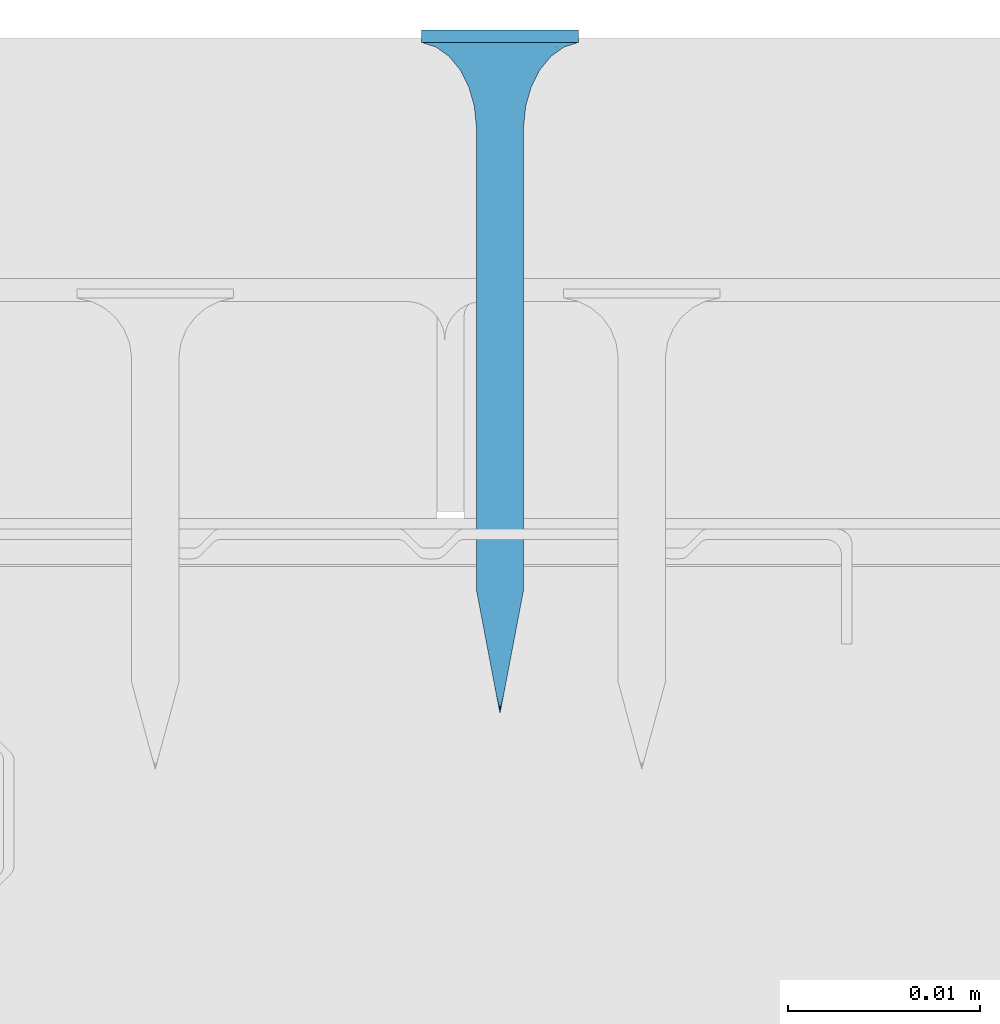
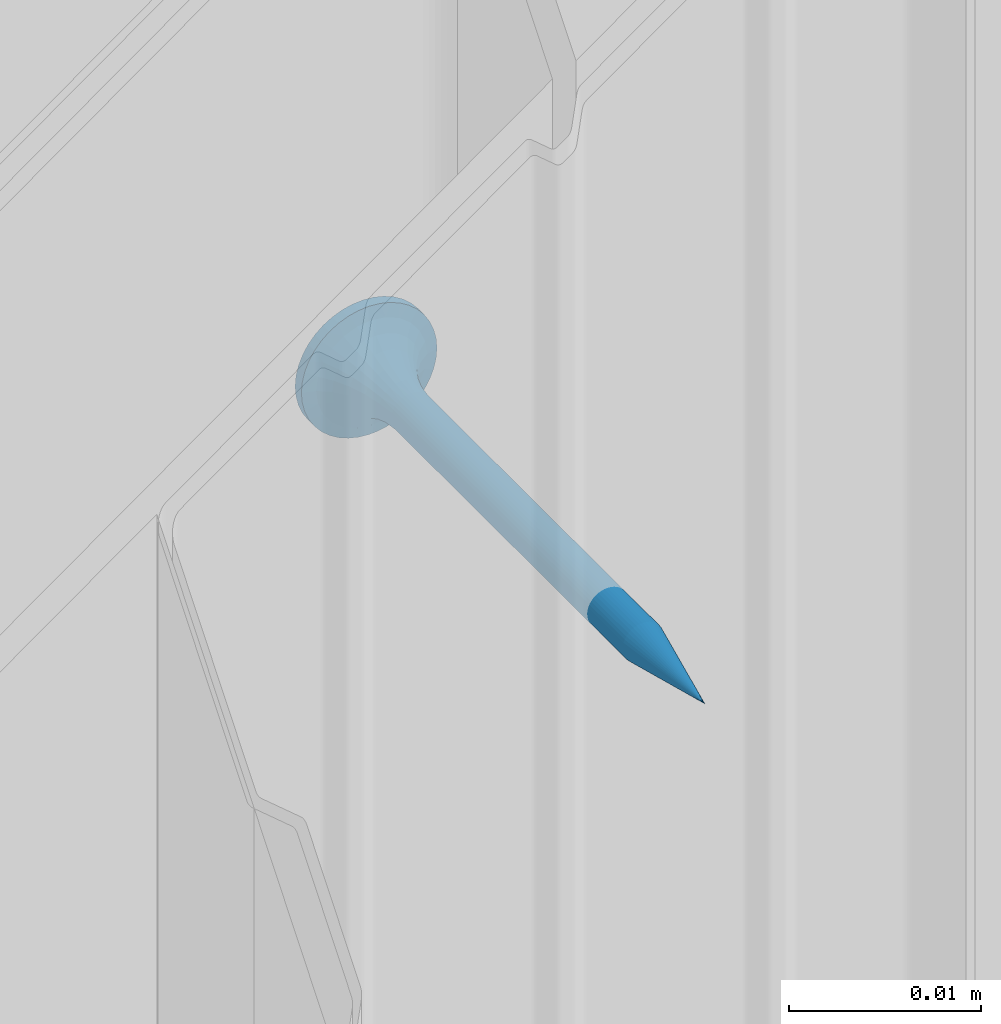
# One storey, part 86 of 89: 1 wall.
"""IFC2X3 building model written with IfcOpenShell, lengths in millimetres."""

from ifc_helpers import new_model, entity, si_unit, converted_unit, direction, frame, origin, origin_with_axes, place, context, project, spatial, faceted_brep, element, save


model = new_model("IFC2X3")

# Units and contexts
model_context = context("Model", 3, precision=1e-05, world=origin(), true_north=direction((0.0, 1.0, 0.0)))
ifc_project = project(units=[si_unit("LENGTHUNIT", "METRE", prefix="MILLI"), si_unit("AREAUNIT", "SQUARE_METRE"), si_unit("VOLUMEUNIT", "CUBIC_METRE"), converted_unit("PLANEANGLEUNIT", "DEGREE", entity("IfcPlaneAngleMeasure", 0.01745), si_unit("PLANEANGLEUNIT", "RADIAN"), dimensions=[0, 0, 0, 0, 0, 0, 0]), si_unit("SOLIDANGLEUNIT", "STERADIAN"), si_unit("MASSUNIT", "GRAM"), si_unit("TIMEUNIT", "SECOND"), si_unit("THERMODYNAMICTEMPERATUREUNIT", "DEGREE_CELSIUS"), si_unit("LUMINOUSINTENSITYUNIT", "LUMEN")], contexts=[model_context])

# Site, building, storey
site_placement = place(None, origin_with_axes())
site = spatial("IfcSite", under=ifc_project, at=site_placement, Name="Default Site", CompositionType="ELEMENT")
building_placement = place(site_placement, origin_with_axes())
building = spatial("IfcBuilding", under=site, at=building_placement, Name="Default Building", CompositionType="ELEMENT")
storey_placement = place(building_placement, origin_with_axes())
storey = spatial("IfcBuildingStorey", under=building, at=storey_placement, Name="Default Building Storey", CompositionType="ELEMENT", Elevation=0.0)

# Wall
wall_placement = place(storey_placement, frame((3282.378809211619, -2709.70794567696, -296.9378894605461), z_axis=(0.0, 0.0, 1.0), x_axis=(-1.0, -1.471045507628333e-15, 0.0)))
element("IfcWall", 1, at=wall_placement, inside=storey, Name="Wkręt RIGIPS TN 35", context=model_context, shape_type="Brep", body=[
    faceted_brep([(-141.5377463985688, -4832.598051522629, 555.8000000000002), (-141.5377463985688, -4833.259713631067, 555.8000000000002), (-141.4875329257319, -4833.259713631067, 555.1619773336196), (-141.4875329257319, -4832.598051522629, 555.1619773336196), (-141.3381289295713, -4833.259713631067, 554.5396649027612), (-141.3381289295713, -4832.598051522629, 554.5396649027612), (-141.0932132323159, -4833.259713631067, 553.9483861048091), (-141.0932132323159, -4832.598051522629, 553.9483861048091), (-140.7588164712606, -4833.259713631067, 553.4027001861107), (-140.7588164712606, -4832.598051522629, 553.4027001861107), (-140.3431726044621, -4833.259713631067, 552.9160437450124), (-140.4541727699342, -4832.598051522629, 553.0314907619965), (-140.1080097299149, -4832.598051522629, 552.6986614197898), (-139.8565161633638, -4833.259713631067, 552.5003998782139), (-139.7251262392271, -4832.598051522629, 552.4088262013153), (-139.3108302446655, -4833.259713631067, 552.1660031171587), (-139.3108302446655, -4832.598051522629, 552.1660031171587), (-138.870865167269, -4832.598051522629, 551.9735584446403), (-138.7195514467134, -4833.259713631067, 551.9210874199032), (-138.4113302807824, -4832.598051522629, 551.8341600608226), (-137.9385961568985, -4832.598051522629, 551.7497404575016), (-138.0972390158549, -4833.259713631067, 551.7716834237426), (-137.4592163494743, -4833.259713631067, 551.7214699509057), (-137.4592163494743, -4832.598051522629, 551.7214699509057), (-136.8211936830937, -4833.259713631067, 551.7716834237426), (-136.8211936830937, -4832.598051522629, 551.7716834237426), (-136.1988812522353, -4833.259713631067, 551.9210874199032), (-136.1988812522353, -4832.598051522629, 551.9210874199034), (-135.6076024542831, -4833.259713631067, 552.1660031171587), (-135.6076024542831, -4832.598051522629, 552.1660031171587), (-135.0619165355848, -4833.259713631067, 552.5003998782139), (-135.0619165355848, -4832.598051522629, 552.5003998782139), (-134.5752600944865, -4833.259713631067, 552.9160437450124), (-134.5752600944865, -4832.598051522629, 552.9160437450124), (-134.159616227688, -4833.259713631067, 553.4027001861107), (-134.159616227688, -4832.598051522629, 553.4027001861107), (-133.8252194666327, -4833.259713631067, 553.9483861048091), (-133.8252194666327, -4832.598051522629, 553.9483861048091), (-133.5803037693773, -4833.259713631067, 554.5396649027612), (-133.5803037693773, -4832.598051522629, 554.5396649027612), (-133.4308997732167, -4833.259713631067, 556.4380226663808), (-133.4308997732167, -4832.598051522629, 556.4380226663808), (-133.3806863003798, -4832.598051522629, 555.8000000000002), (-133.3806863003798, -4833.259713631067, 555.8000000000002), (-133.4308997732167, -4832.598051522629, 555.1619773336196), (-133.4308997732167, -4833.259713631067, 555.1619773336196), (-133.5803037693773, -4833.259713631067, 557.0603350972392), (-133.5803037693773, -4832.598051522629, 557.0603350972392), (-133.8252194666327, -4833.259713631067, 557.6516138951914), (-133.8252194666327, -4832.598051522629, 557.6516138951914), (-134.159616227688, -4833.259713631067, 558.1972998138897), (-134.159616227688, -4832.598051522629, 558.1972998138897), (-134.5752600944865, -4833.259713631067, 558.683956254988), (-134.5752600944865, -4832.598051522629, 558.683956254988), (-135.0619165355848, -4833.259713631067, 559.0996001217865), (-135.0619165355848, -4832.598051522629, 559.0996001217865), (-135.6076024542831, -4833.259713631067, 559.4339968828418), (-135.6076024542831, -4832.598051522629, 559.4339968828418), (-136.1988812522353, -4833.259713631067, 559.6789125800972), (-136.1988812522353, -4832.598051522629, 559.6789125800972), (-136.8211936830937, -4833.259713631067, 559.8283165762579), (-136.8211936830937, -4832.598051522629, 559.8283165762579), (-137.4592163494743, -4833.259713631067, 559.8785300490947), (-137.4592163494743, -4832.598051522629, 559.8785300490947), (-138.0972390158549, -4833.259713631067, 559.8283165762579), (-138.0972390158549, -4832.598051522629, 559.8283165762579), (-138.7195514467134, -4833.259713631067, 559.6789125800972), (-138.7195514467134, -4832.598051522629, 559.6789125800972), (-139.3108302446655, -4833.259713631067, 559.4339968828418), (-139.3108302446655, -4832.598051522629, 559.4339968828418), (-139.8565161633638, -4833.259713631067, 559.0996001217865), (-139.8565161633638, -4832.598051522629, 559.0996001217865), (-140.3431726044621, -4833.259713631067, 558.683956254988), (-140.3431726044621, -4832.598051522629, 558.683956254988), (-140.7588164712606, -4833.259713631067, 558.1972998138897), (-140.7588164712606, -4832.598051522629, 558.1972998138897), (-141.0932132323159, -4833.259713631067, 557.6516138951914), (-141.0932132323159, -4832.598051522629, 557.6516138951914), (-141.3381289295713, -4833.259713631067, 557.0603350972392), (-141.3381289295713, -4832.598051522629, 557.0603350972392), (-141.4875329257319, -4833.259713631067, 556.4380226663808), (-141.4875329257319, -4832.598051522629, 556.4380226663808), (-137.8060615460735, -4829.281368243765, 554.5055560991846), (-137.4592163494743, -4828.206294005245, 554.5693795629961), (-137.6517277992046, -4828.206294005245, 554.5845305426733), (-137.4592163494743, -4829.281368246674, 554.4598930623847), (-137.8394989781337, -4828.206294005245, 554.6296104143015), (-138.1292698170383, -4829.281368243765, 554.639433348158), (-138.0179063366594, -4828.206294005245, 554.7035091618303), (-138.1825568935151, -4828.206294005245, 554.804407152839), (-138.4068150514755, -4829.281368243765, 554.8524012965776), (-138.3293964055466, -4828.206294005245, 554.929819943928), (-138.6197830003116, -4829.281368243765, 555.1299465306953), (-138.4548091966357, -4828.206294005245, 555.0766594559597), (-138.5557071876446, -4828.206294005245, 555.2413100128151), (-138.7536602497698, -4829.281368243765, 555.4531548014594), (-138.629605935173, -4828.206294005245, 555.4197173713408), (-138.6746858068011, -4828.206294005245, 555.6074885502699), (-138.7993232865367, -4829.281368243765, 555.7999999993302), (-138.6898367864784, -4828.206294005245, 555.8000000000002), (-138.7536602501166, -4829.281368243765, 556.1468451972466), (-138.6746858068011, -4828.206294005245, 555.9925114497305), (-138.629605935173, -4828.206294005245, 556.1802826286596), (-138.6197830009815, -4829.281368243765, 556.4700534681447), (-138.5557071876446, -4828.206294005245, 556.3586899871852), (-138.4548091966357, -4828.206294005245, 556.5233405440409), (-138.4068150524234, -4829.281368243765, 556.7475987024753), (-138.3293964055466, -4828.206294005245, 556.6701800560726), (-138.1292698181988, -4829.281368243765, 556.9605666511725), (-138.1825568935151, -4828.206294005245, 556.7955928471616), (-138.0179063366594, -4828.206294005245, 556.8964908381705), (-137.8060615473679, -4829.281368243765, 557.094443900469), (-137.8394989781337, -4828.206294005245, 556.970389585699), (-137.6517277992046, -4828.206294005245, 557.0154694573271), (-137.4592163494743, -4829.281368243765, 557.1401069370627), (-137.4592163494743, -4828.206294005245, 557.0306204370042), (-137.1123711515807, -4829.281368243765, 557.094443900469), (-137.2667048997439, -4828.206294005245, 557.0154694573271), (-137.0789337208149, -4828.206294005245, 556.970389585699), (-136.7891628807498, -4829.281368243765, 556.9605666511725), (-136.9005263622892, -4828.206294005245, 556.8964908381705), (-136.7358758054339, -4828.206294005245, 556.7955928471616), (-136.5116176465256, -4829.281368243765, 556.7475987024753), (-136.5890362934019, -4828.206294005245, 556.6701800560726), (-136.2986496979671, -4829.281368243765, 556.4700534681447), (-136.4636235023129, -4828.206294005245, 556.5233405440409), (-136.3627255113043, -4828.206294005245, 556.3586899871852), (-136.1647724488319, -4829.281368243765, 556.1468451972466), (-136.2888267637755, -4828.206294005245, 556.1802826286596), (-136.2437468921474, -4828.206294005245, 555.9925114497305), (-136.1191094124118, -4829.281368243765, 555.7999999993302), (-136.2285959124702, -4828.206294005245, 555.8000000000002), (-136.1647724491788, -4829.281368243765, 555.4531548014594), (-136.2437468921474, -4828.206294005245, 555.6074885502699), (-136.2888267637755, -4828.206294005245, 555.4197173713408), (-136.298649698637, -4829.281368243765, 555.1299465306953), (-136.3627255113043, -4828.206294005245, 555.2413100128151), (-136.4636235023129, -4828.206294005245, 555.0766594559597), (-136.5116176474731, -4829.281368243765, 554.8524012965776), (-136.5890362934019, -4828.206294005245, 554.929819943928), (-136.7891628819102, -4829.281368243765, 554.639433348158), (-136.7358758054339, -4828.206294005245, 554.804407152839), (-136.9005263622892, -4828.206294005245, 554.7035091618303), (-137.1123711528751, -4829.281368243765, 554.5055560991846), (-137.0789337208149, -4828.206294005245, 554.6296104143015), (-137.2667048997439, -4828.206294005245, 554.5845305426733), (-137.4592163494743, -4830.288222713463, 554.1737111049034), (-137.8801308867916, -4830.288222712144, 554.2291255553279), (-138.2723607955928, -4830.288222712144, 554.3915925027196), (-138.6091762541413, -4830.288222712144, 554.6500400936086), (-138.8676238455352, -4830.288222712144, 554.9868555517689), (-139.0300907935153, -4830.288222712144, 555.3790854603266), (-139.085505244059, -4830.288222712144, 555.799999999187), (-139.0300907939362, -4830.288222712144, 556.2209145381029), (-138.8676238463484, -4830.288222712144, 556.6131444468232), (-138.6091762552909, -4830.288222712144, 556.9499599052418), (-138.2723607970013, -4830.288222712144, 557.2084074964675), (-137.8801308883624, -4830.288222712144, 557.3708744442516), (-137.4592163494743, -4830.288222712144, 557.4262888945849), (-137.0383018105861, -4830.288222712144, 557.3708744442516), (-136.6460719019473, -4830.288222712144, 557.2084074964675), (-136.3092564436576, -4830.288222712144, 556.9499599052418), (-136.0508088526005, -4830.288222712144, 556.6131444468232), (-135.8883419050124, -4830.288222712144, 556.2209145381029), (-135.8329274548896, -4830.288222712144, 555.799999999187), (-135.8883419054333, -4830.288222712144, 555.3790854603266), (-136.0508088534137, -4830.288222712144, 554.9868555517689), (-136.3092564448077, -4830.288222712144, 554.6500400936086), (-136.6460719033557, -4830.288222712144, 554.3915925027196), (-137.038301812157, -4830.288222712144, 554.2291255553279), (-137.4592163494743, -4831.168773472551, 553.7273431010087), (-137.9956594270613, -4831.168773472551, 553.7979671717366), (-138.4955447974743, -4831.168773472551, 554.005026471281), (-138.9248060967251, -4831.168773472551, 554.3344102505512), (-139.2541898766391, -4831.168773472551, 554.7636715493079), (-139.4612491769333, -4831.168773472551, 555.2635569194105), (-139.5318732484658, -4831.168773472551, 555.7999999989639), (-139.4612491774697, -4831.168773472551, 556.3364430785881), (-139.2541898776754, -4831.168773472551, 556.8363284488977), (-138.9248060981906, -4831.168773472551, 557.2655897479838), (-138.4955447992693, -4831.168773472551, 557.594973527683), (-137.9956594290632, -4831.168773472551, 557.8020328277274), (-137.4592163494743, -4831.168773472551, 557.8726568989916), (-136.9227732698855, -4831.168773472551, 557.8020328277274), (-136.4228878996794, -4831.168773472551, 557.594973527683), (-135.993626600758, -4831.168773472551, 557.2655897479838), (-135.6642428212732, -4831.168773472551, 556.8363284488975), (-135.4571835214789, -4831.168773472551, 556.3364430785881), (-135.3865594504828, -4831.168773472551, 555.7999999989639), (-135.4571835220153, -4831.168773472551, 555.2635569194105), (-135.6642428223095, -4831.168773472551, 554.7636715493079), (-135.9936266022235, -4831.168773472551, 554.3344102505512), (-136.4228879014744, -4831.168773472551, 554.005026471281), (-136.9227732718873, -4831.168773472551, 553.7979671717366), (-137.4592163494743, -4831.872222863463, 553.1465393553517), (-138.1459824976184, -4831.872222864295, 553.2369538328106), (-138.7859466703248, -4831.872222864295, 553.5020356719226), (-139.3354963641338, -4831.872222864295, 553.9237199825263), (-139.757180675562, -4831.872222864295, 554.4732696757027), (-140.0222625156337, -4831.872222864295, 555.1132338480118), (-140.1126769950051, -4831.872222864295, 555.7999999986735), (-140.0222625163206, -4831.872222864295, 556.4867661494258), (-139.7571806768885, -4831.872222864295, 557.1267303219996), (-139.33549636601, -4831.872222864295, 557.6762800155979), (-138.7859466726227, -4831.872222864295, 558.0979643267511), (-138.1459825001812, -4831.872222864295, 558.3630461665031), (-137.4592163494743, -4831.872222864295, 558.4534606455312), (-136.7724501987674, -4831.872222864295, 558.3630461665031), (-136.1324860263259, -4831.872222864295, 558.0979643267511), (-135.5829363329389, -4831.872222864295, 557.6762800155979), (-135.1612520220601, -4831.872222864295, 557.1267303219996), (-134.8961701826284, -4831.872222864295, 556.4867661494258), (-134.8057557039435, -4831.872222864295, 555.7999999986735), (-134.8961701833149, -4831.872222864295, 555.1132338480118), (-135.1612520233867, -4831.872222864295, 554.4732696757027), (-135.5829363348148, -4831.872222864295, 553.9237199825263), (-136.1324860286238, -4831.872222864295, 553.5020356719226), (-136.7724502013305, -4831.872222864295, 553.2369538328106), (-137.4592163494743, -4832.357989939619, 552.4648055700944), (-138.3224281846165, -4832.357989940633, 552.578449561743), (-139.1268135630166, -4832.357989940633, 552.9116368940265), (-139.8175549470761, -4832.357989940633, 553.4416613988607), (-140.3475794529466, -4832.357989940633, 554.1324027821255), (-140.6807667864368, -4832.357989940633, 554.9367881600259), (-140.7944107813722, -4832.357989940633, 555.7999999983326), (-140.6807667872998, -4832.357989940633, 556.6632118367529), (-140.3475794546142, -4832.357989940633, 557.4675972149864), (-139.8175549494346, -4832.357989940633, 558.1583385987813), (-139.1268135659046, -4832.357989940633, 558.6883631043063), (-138.322428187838, -4832.357989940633, 559.021550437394), (-137.4592163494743, -4832.357989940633, 559.1351944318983), (-136.596004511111, -4832.357989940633, 559.021550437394), (-135.791619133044, -4832.357989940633, 558.6883631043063), (-135.100877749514, -4832.357989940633, 558.1583385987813), (-134.5708532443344, -4832.357989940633, 557.4675972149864), (-134.2376659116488, -4832.357989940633, 556.6632118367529), (-134.1240219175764, -4832.357989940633, 555.7999999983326), (-134.2376659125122, -4832.357989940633, 554.9367881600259), (-134.570853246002, -4832.357989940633, 554.1324027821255), (-135.1008777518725, -4832.357989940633, 553.4416613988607), (-135.7916191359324, -4832.357989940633, 552.9116368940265), (-136.5960045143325, -4832.357989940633, 552.578449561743), (-138.6898367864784, -4804.09375793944, 555.8000000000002), (-138.6746858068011, -4804.09375793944, 555.6074885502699), (-138.629605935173, -4804.09375793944, 555.4197173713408), (-138.5557071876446, -4804.09375793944, 555.2413100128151), (-138.4548091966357, -4804.09375793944, 555.0766594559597), (-138.3293964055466, -4804.09375793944, 554.929819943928), (-138.1825568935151, -4804.09375793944, 554.804407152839), (-138.0179063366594, -4804.09375793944, 554.7035091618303), (-137.8394989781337, -4804.09375793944, 554.6296104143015), (-137.6517277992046, -4804.09375793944, 554.5845305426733), (-137.4592163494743, -4804.09375793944, 554.5693795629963), (-137.2667048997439, -4804.09375793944, 554.5845305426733), (-137.0789337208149, -4804.09375793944, 554.6296104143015), (-136.9005263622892, -4804.09375793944, 554.7035091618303), (-136.7358758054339, -4804.09375793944, 554.804407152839), (-136.5890362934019, -4804.09375793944, 554.929819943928), (-136.4636235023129, -4804.09375793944, 555.0766594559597), (-136.3627255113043, -4804.09375793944, 555.2413100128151), (-136.2888267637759, -4804.09375793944, 555.4197173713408), (-136.2437468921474, -4804.09375793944, 555.9925114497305), (-136.2285959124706, -4804.09375793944, 555.8000000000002), (-136.2437468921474, -4804.09375793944, 555.6074885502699), (-136.2888267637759, -4804.09375793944, 556.1802826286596), (-136.3627255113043, -4804.09375793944, 556.3586899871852), (-136.4636235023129, -4804.09375793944, 556.5233405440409), (-136.5890362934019, -4804.09375793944, 556.6701800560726), (-136.7358758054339, -4804.09375793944, 556.7955928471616), (-136.9005263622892, -4804.09375793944, 556.8964908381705), (-137.0789337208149, -4804.09375793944, 556.970389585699), (-137.2667048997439, -4804.09375793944, 557.0154694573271), (-137.4592163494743, -4804.09375793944, 557.0306204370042), (-137.6517277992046, -4804.09375793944, 557.0154694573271), (-137.8394989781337, -4804.09375793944, 556.970389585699), (-138.0179063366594, -4804.09375793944, 556.8964908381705), (-138.1825568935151, -4804.09375793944, 556.7955928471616), (-138.3293964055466, -4804.09375793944, 556.6701800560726), (-138.4548091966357, -4804.09375793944, 556.5233405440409), (-138.5557071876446, -4804.09375793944, 556.3586899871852), (-138.629605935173, -4804.09375793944, 556.1802826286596), (-138.6746858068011, -4804.09375793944, 555.9925114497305), (-137.4592163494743, -4797.627063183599, 555.8000000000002), (-139.9592163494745, -4833.259713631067, 556.3000000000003), (-137.9592163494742, -4833.259713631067, 556.3000000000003), (-139.9592163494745, -4833.259713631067, 555.3000000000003), (-137.9592163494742, -4833.259713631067, 555.3000000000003), (-137.9592163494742, -4833.259713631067, 553.3000000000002), (-136.9592163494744, -4833.259713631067, 553.3000000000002), (-136.9592163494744, -4833.259713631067, 555.3000000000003), (-134.9592163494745, -4833.259713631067, 555.3000000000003), (-134.9592163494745, -4833.259713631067, 556.3000000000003), (-136.9592163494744, -4833.259713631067, 556.3000000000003), (-136.9592163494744, -4833.259713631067, 558.3000000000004), (-137.9592163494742, -4833.259713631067, 558.3000000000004), (-136.9592163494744, -4831.988379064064, 556.3000000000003), (-134.9592163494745, -4831.988379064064, 556.3000000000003), (-134.9592163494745, -4831.988379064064, 555.3000000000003), (-136.9592163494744, -4831.988379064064, 555.3000000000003), (-136.9592163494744, -4831.988379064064, 553.3000000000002), (-137.9592163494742, -4831.988379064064, 553.3000000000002), (-137.9592163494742, -4831.988379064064, 555.3000000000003), (-139.9592163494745, -4831.988379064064, 555.3000000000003), (-139.9592163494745, -4831.988379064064, 556.3000000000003), (-137.9592163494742, -4831.988379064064, 556.3000000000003), (-137.9592163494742, -4831.988379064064, 558.3000000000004), (-136.9592163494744, -4831.988379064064, 558.3000000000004)], [[[0, 1, 2, 3]], [[4, 5, 3, 2]], [[6, 7, 5, 4]], [[7, 6, 8, 9]], [[8, 10, 9]], [[10, 11, 9]], [[12, 11, 13]], [[11, 10, 13]], [[13, 14, 12]], [[13, 15, 14]], [[15, 16, 14]], [[17, 16, 18]], [[16, 15, 18]], [[18, 19, 17]], [[20, 19, 21]], [[19, 18, 21]], [[21, 22, 20]], [[22, 23, 20]], [[23, 22, 24, 25]], [[26, 27, 25, 24]], [[28, 29, 27, 26]], [[29, 28, 30, 31]], [[32, 33, 31, 30]], [[33, 32, 34, 35]], [[36, 37, 35, 34]], [[38, 39, 37, 36]], [[40, 41, 42, 43]], [[43, 42, 44, 45]], [[39, 38, 45, 44]], [[46, 47, 41, 40]], [[48, 49, 47, 46]], [[49, 48, 50, 51]], [[52, 53, 51, 50]], [[53, 52, 54, 55]], [[56, 57, 55, 54]], [[58, 59, 57, 56]], [[59, 58, 60, 61]], [[62, 63, 61, 60]], [[63, 62, 64, 65]], [[66, 67, 65, 64]], [[68, 69, 67, 66]], [[69, 68, 70, 71]], [[72, 73, 71, 70]], [[73, 72, 74, 75]], [[76, 77, 75, 74]], [[78, 79, 77, 76]], [[79, 78, 80, 81]], [[1, 0, 81, 80]], [[82, 83, 84]], [[82, 85, 83]], [[84, 86, 82]], [[82, 86, 87]], [[88, 87, 86]], [[87, 88, 89]], [[89, 90, 87]], [[89, 91, 90]], [[92, 91, 93]], [[92, 90, 91]], [[93, 94, 92]], [[92, 94, 95]], [[96, 95, 94]], [[95, 96, 97]], [[97, 98, 95]], [[97, 99, 98]], [[100, 99, 101]], [[100, 98, 99]], [[101, 102, 100]], [[100, 102, 103]], [[104, 103, 102]], [[103, 104, 105]], [[105, 106, 103]], [[105, 107, 106]], [[108, 107, 109]], [[108, 106, 107]], [[109, 110, 108]], [[108, 110, 111]], [[112, 111, 110]], [[111, 112, 113]], [[113, 114, 111]], [[113, 115, 114]], [[116, 115, 117]], [[116, 114, 115]], [[117, 118, 116]], [[116, 118, 119]], [[120, 119, 118]], [[119, 120, 121]], [[121, 122, 119]], [[121, 123, 122]], [[124, 123, 125]], [[124, 122, 123]], [[125, 126, 124]], [[124, 126, 127]], [[128, 127, 126]], [[127, 128, 129]], [[129, 130, 127]], [[129, 131, 130]], [[132, 131, 133]], [[132, 130, 131]], [[133, 134, 132]], [[132, 134, 135]], [[136, 135, 134]], [[135, 136, 137]], [[137, 138, 135]], [[137, 139, 138]], [[140, 139, 141]], [[140, 138, 139]], [[141, 142, 140]], [[140, 142, 143]], [[144, 143, 142]], [[143, 144, 145]], [[145, 85, 143]], [[145, 83, 85]], [[146, 85, 147]], [[82, 147, 85]], [[87, 148, 147, 82]], [[90, 149, 148, 87]], [[92, 150, 149, 90]], [[95, 151, 150, 92]], [[98, 152, 151, 95]], [[100, 153, 152, 98]], [[103, 154, 153, 100]], [[106, 155, 154, 103]], [[108, 156, 155, 106]], [[111, 157, 156, 108]], [[114, 158, 157, 111]], [[116, 159, 158, 114]], [[119, 160, 159, 116]], [[122, 161, 160, 119]], [[124, 162, 161, 122]], [[127, 163, 162, 124]], [[130, 164, 163, 127]], [[132, 165, 164, 130]], [[135, 166, 165, 132]], [[138, 167, 166, 135]], [[140, 168, 167, 138]], [[143, 169, 168, 140]], [[143, 85, 169]], [[146, 169, 85]], [[170, 146, 171]], [[147, 171, 146]], [[148, 172, 171, 147]], [[149, 173, 172, 148]], [[150, 174, 173, 149]], [[151, 175, 174, 150]], [[152, 176, 175, 151]], [[153, 177, 176, 152]], [[154, 178, 177, 153]], [[155, 179, 178, 154]], [[156, 180, 179, 155]], [[157, 181, 180, 156]], [[158, 182, 181, 157]], [[159, 183, 182, 158]], [[160, 184, 183, 159]], [[161, 185, 184, 160]], [[162, 186, 185, 161]], [[163, 187, 186, 162]], [[164, 188, 187, 163]], [[165, 189, 188, 164]], [[166, 190, 189, 165]], [[167, 191, 190, 166]], [[168, 192, 191, 167]], [[169, 193, 192, 168]], [[169, 146, 193]], [[170, 193, 146]], [[194, 170, 195]], [[171, 195, 170]], [[172, 196, 195, 171]], [[173, 197, 196, 172]], [[174, 198, 197, 173]], [[175, 199, 198, 174]], [[176, 200, 199, 175]], [[177, 201, 200, 176]], [[178, 202, 201, 177]], [[179, 203, 202, 178]], [[180, 204, 203, 179]], [[181, 205, 204, 180]], [[182, 206, 205, 181]], [[183, 207, 206, 182]], [[184, 208, 207, 183]], [[185, 209, 208, 184]], [[186, 210, 209, 185]], [[187, 211, 210, 186]], [[188, 212, 211, 187]], [[189, 213, 212, 188]], [[190, 214, 213, 189]], [[191, 215, 214, 190]], [[192, 216, 215, 191]], [[193, 217, 216, 192]], [[193, 170, 217]], [[194, 217, 170]], [[218, 19, 20]], [[218, 219, 19]], [[20, 23, 218]], [[218, 194, 219]], [[195, 219, 194]], [[219, 16, 17]], [[219, 220, 16]], [[17, 19, 219]], [[196, 220, 219, 195]], [[221, 11, 12]], [[220, 12, 14]], [[220, 221, 12]], [[14, 16, 220]], [[197, 221, 220, 196]], [[222, 7, 9]], [[9, 221, 222]], [[9, 11, 221]], [[198, 222, 221, 197]], [[5, 7, 223]], [[222, 223, 7]], [[199, 223, 222, 198]], [[223, 0, 3]], [[223, 224, 0]], [[3, 5, 223]], [[200, 224, 223, 199]], [[225, 79, 81]], [[81, 224, 225]], [[81, 0, 224]], [[201, 225, 224, 200]], [[225, 226, 77, 79]], [[202, 226, 225, 201]], [[226, 73, 75]], [[226, 227, 73]], [[75, 77, 226]], [[203, 227, 226, 202]], [[228, 69, 71]], [[71, 227, 228]], [[71, 73, 227]], [[204, 228, 227, 203]], [[228, 229, 67, 69]], [[205, 229, 228, 204]], [[229, 63, 65]], [[229, 230, 63]], [[65, 67, 229]], [[206, 230, 229, 205]], [[231, 59, 61]], [[61, 230, 231]], [[61, 63, 230]], [[207, 231, 230, 206]], [[231, 232, 57, 59]], [[208, 232, 231, 207]], [[232, 53, 55]], [[232, 233, 53]], [[55, 57, 232]], [[209, 233, 232, 208]], [[234, 49, 51]], [[51, 233, 234]], [[51, 53, 233]], [[210, 234, 233, 209]], [[234, 235, 47, 49]], [[211, 235, 234, 210]], [[235, 42, 41]], [[235, 236, 42]], [[41, 47, 235]], [[212, 236, 235, 211]], [[237, 39, 44]], [[44, 236, 237]], [[44, 42, 236]], [[213, 237, 236, 212]], [[37, 39, 238]], [[237, 238, 39]], [[214, 238, 237, 213]], [[238, 33, 35]], [[238, 239, 33]], [[35, 37, 238]], [[215, 239, 238, 214]], [[240, 29, 31]], [[31, 239, 240]], [[31, 33, 239]], [[216, 240, 239, 215]], [[27, 29, 241]], [[240, 241, 29]], [[217, 241, 240, 216]], [[217, 194, 241]], [[218, 241, 194]], [[241, 23, 25]], [[241, 218, 23]], [[25, 27, 241]], [[242, 99, 97, 243]], [[96, 244, 243, 97]], [[94, 245, 244, 96]], [[245, 94, 93, 246]], [[91, 247, 246, 93]], [[247, 91, 89, 248]], [[88, 249, 248, 89]], [[86, 250, 249, 88]], [[250, 86, 84, 251]], [[83, 252, 251, 84]], [[252, 83, 145, 253]], [[144, 254, 253, 145]], [[142, 255, 254, 144]], [[255, 142, 141, 256]], [[139, 257, 256, 141]], [[257, 139, 137, 258]], [[136, 259, 258, 137]], [[134, 260, 259, 136]], [[129, 261, 262, 131]], [[131, 262, 263, 133]], [[260, 134, 133, 263]], [[128, 264, 261, 129]], [[126, 265, 264, 128]], [[265, 126, 125, 266]], [[123, 267, 266, 125]], [[267, 123, 121, 268]], [[120, 269, 268, 121]], [[118, 270, 269, 120]], [[270, 118, 117, 271]], [[115, 272, 271, 117]], [[272, 115, 113, 273]], [[112, 274, 273, 113]], [[110, 275, 274, 112]], [[275, 110, 109, 276]], [[107, 277, 276, 109]], [[277, 107, 105, 278]], [[104, 279, 278, 105]], [[102, 280, 279, 104]], [[280, 102, 101, 281]], [[99, 242, 281, 101]], [[243, 244, 282]], [[282, 242, 243]], [[244, 245, 282]], [[246, 247, 282]], [[282, 245, 246]], [[248, 249, 282]], [[282, 247, 248]], [[249, 250, 282]], [[251, 252, 282]], [[282, 250, 251]], [[253, 254, 282]], [[282, 252, 253]], [[254, 255, 282]], [[256, 257, 282]], [[282, 255, 256]], [[258, 259, 282]], [[282, 257, 258]], [[259, 260, 282]], [[263, 262, 282]], [[282, 260, 263]], [[261, 264, 282]], [[282, 262, 261]], [[264, 265, 282]], [[266, 267, 282]], [[282, 265, 266]], [[268, 269, 282]], [[282, 267, 268]], [[269, 270, 282]], [[271, 272, 282]], [[282, 270, 271]], [[273, 274, 282]], [[282, 272, 273]], [[274, 275, 282]], [[276, 277, 282]], [[282, 275, 276]], [[278, 279, 282]], [[282, 277, 278]], [[279, 280, 282]], [[281, 242, 282]], [[282, 280, 281]], [[283, 76, 74, 284]], [[283, 285, 286, 287, 288, 289, 290, 291, 292, 293, 294, 284, 74, 72, 70, 68, 66, 64, 62, 60, 58, 56, 54, 52, 50, 48, 46, 40, 43, 45, 38, 36, 34, 32, 30, 28, 26, 24, 22, 21, 18, 15, 13, 10, 8, 6, 4, 2, 1, 80, 78, 76]], [[295, 296, 297, 298, 299, 300, 301, 302, 303, 304, 305, 306]], [[297, 290, 289, 298]], [[296, 291, 290, 297]], [[295, 292, 291, 296]], [[306, 293, 292, 295]], [[305, 294, 293, 306]], [[304, 284, 294, 305]], [[303, 283, 284, 304]], [[302, 285, 283, 303]], [[301, 286, 285, 302]], [[300, 287, 286, 301]], [[299, 288, 287, 300]], [[298, 289, 288, 299]]]),
])

save(model, "model.ifc")
